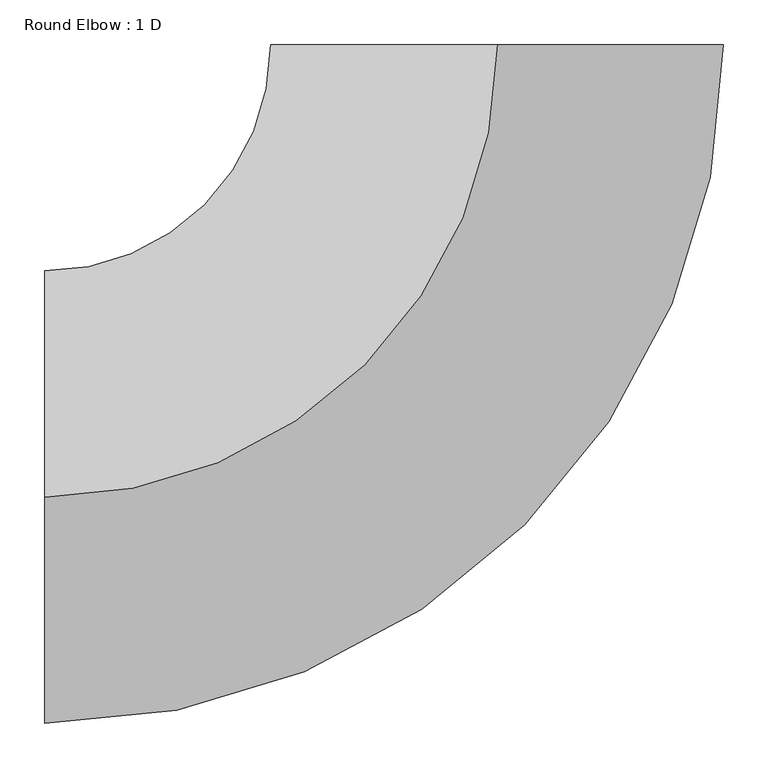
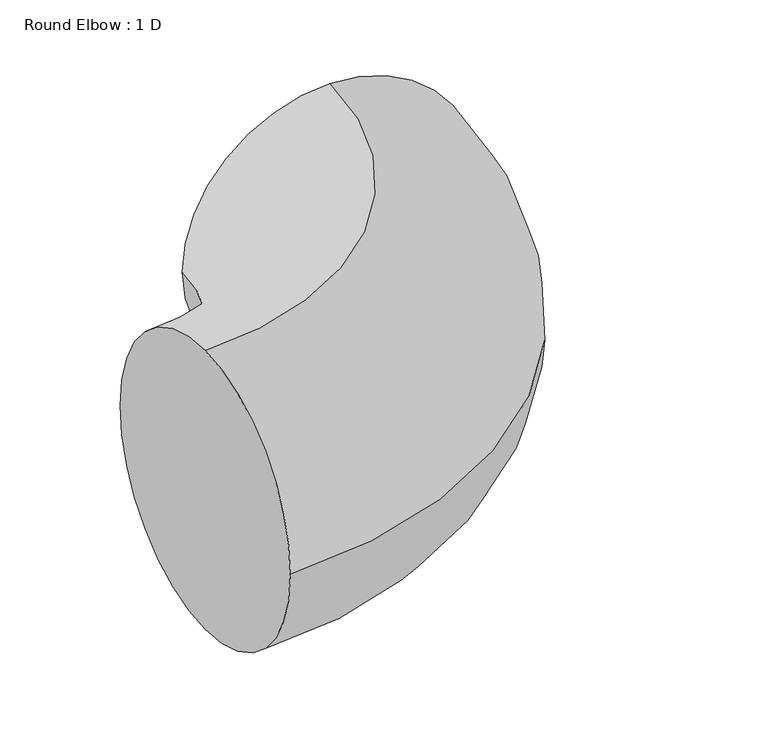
"""IFC4 building model written with IfcOpenShell, lengths in millimetres: duct fitting geometry, Round Elbow : 1 D."""

from ifc_helpers import new_model, si_unit, point, frame, origin, place, context, project, spatial, circle_curve, ellipse_curve, trimmed, source, transform, mapped, element, save
from ifc_brep_helpers import plane_surface, revolved_surface, advanced_brep


def round_elbow_1_d_1de4db61(model_context):
    return source(origin(), model_context, "Body", "AdvancedBrep", [
        advanced_brep(
        [(-508.0, 0.0, 254.0), (-508.0, 254.0, 0.0), (-508.0, 0.0, -254.0), (-508.0, -254.0, 0.0), (0.0, 508.0, 254.0), (254.0, 508.0, 0.0), (0.0, 508.0, -254.0), (-254.0, 508.0, 0.0)],
        [
            (0, 1, circle_curve(frame((-508.0, 0.0, 0.0), z_axis=(-1.0, 0.0, 0.0), x_axis=(0.0, 1.0, 0.0)), 254.0)),
            (1, 2, circle_curve(frame((-508.0, 0.0, 0.0), z_axis=(-1.0, 0.0, 0.0), x_axis=(0.0, 1.0, 0.0)), 254.0)),
            (2, 3, circle_curve(frame((-508.0, 0.0, 0.0), z_axis=(-1.0, 0.0, 0.0), x_axis=(0.0, 1.0, 0.0)), 254.0)),
            (3, 0, circle_curve(frame((-508.0, 0.0, 0.0), z_axis=(-1.0, 0.0, 0.0), x_axis=(0.0, 1.0, 0.0)), 254.0)),
            (4, 5, circle_curve(frame((0.0, 508.0, 0.0), z_axis=(0.0, 1.0, 0.0), x_axis=(-1.0, 0.0, 0.0)), 254.0)),
            (5, 6, circle_curve(frame((0.0, 508.0, 0.0), z_axis=(0.0, 1.0, 0.0), x_axis=(-1.0, 0.0, 0.0)), 254.0)),
            (6, 7, circle_curve(frame((0.0, 508.0, 0.0), z_axis=(0.0, 1.0, 0.0), x_axis=(-1.0, 0.0, 0.0)), 254.0)),
            (7, 4, circle_curve(frame((0.0, 508.0, 0.0), z_axis=(0.0, 1.0, 0.0), x_axis=(-1.0, 0.0, 0.0)), 254.0)),
            (7, 1, circle_curve(frame((-508.0, 508.0, 0.0), z_axis=(0.0, 0.0, -1.0), x_axis=(0.0, -1.0, 0.0)), 254.0)),
            (0, 4, circle_curve(frame((-508.0, 508.0, 254.0), z_axis=(0.0, 0.0, 1.0), x_axis=(0.0, -1.0, 0.0)), 508.0)),
            (6, 2, circle_curve(frame((-508.0, 508.0, -254.0), z_axis=(0.0, 0.0, -1.0), x_axis=(0.0, -1.0, 0.0)), 508.0)),
            (5, 3, circle_curve(frame((-508.0, 508.0, 0.0), z_axis=(0.0, 0.0, -1.0), x_axis=(0.0, -1.0, 0.0)), 762.0)),
        ],
        [
            plane_surface(frame((-508.0, 0.0, 0.0), z_axis=(-1.0, 0.0, 0.0), x_axis=(0.0, 0.0, 1.0))),
            plane_surface(frame((0.0, 508.0, 0.0), z_axis=(0.0, 1.0, 0.0), x_axis=(0.0, 0.0, 1.0))),
            revolved_surface(trimmed(ellipse_curve(frame((-508.0, 0.0, 0.0), z_axis=(-1.0, 0.0, 0.0), x_axis=(0.0, 1.0, 0.0)), 254.0, 254.0), [point((-508.0, 0.0, 254.0))], [point((-508.0, 254.0, 0.0))], True, "CARTESIAN"), (-508.0, 508.0, 0.0), (0.0, 0.0, 1.0)),
            revolved_surface(trimmed(ellipse_curve(frame((-508.0, 0.0, 0.0), z_axis=(-1.0, 0.0, 0.0), x_axis=(0.0, 1.0, 0.0)), 254.0, 254.0), [point((-508.0, 254.0, 0.0))], [point((-508.0, 0.0, -254.0))], True, "CARTESIAN"), (-508.0, 508.0, 0.0), (0.0, 0.0, 1.0)),
            revolved_surface(trimmed(ellipse_curve(frame((-508.0, 0.0, 0.0), z_axis=(-1.0, 0.0, 0.0), x_axis=(0.0, 1.0, 0.0)), 254.0, 254.0), [point((-508.0, 0.0, -254.0))], [point((-508.0, -254.0, 0.0))], True, "CARTESIAN"), (-508.0, 508.0, 0.0), (0.0, 0.0, 1.0)),
            revolved_surface(trimmed(ellipse_curve(frame((-508.0, 0.0, 0.0), z_axis=(-1.0, 0.0, 0.0), x_axis=(0.0, 1.0, 0.0)), 254.0, 254.0), [point((-508.0, -254.0, 0.0))], [point((-508.0, 0.0, 254.0))], True, "CARTESIAN"), (-508.0, 508.0, 0.0), (0.0, 0.0, 1.0)),
        ],
        [
            (0, [[1, 2, 3, 4]]),
            (1, [[5, 6, 7, 8]]),
            (2, [[9, -1, 10, -8]]),
            (3, [[11, -2, -9, -7]]),
            (4, [[12, -3, -11, -6]]),
            (5, [[-10, -4, -12, -5]]),
        ],
    ),
    ])


if __name__ == "__main__":
    model = new_model("IFC4")
    model_context = context("Model", 3, world=origin())
    ifc_project = project(units=[si_unit("LENGTHUNIT", "METRE", prefix="MILLI")], contexts=[model_context])
    site = spatial("IfcSite", under=ifc_project)
    building = spatial("IfcBuilding", under=site)
    placement = place(None, origin())
    round_elbow_1_d_shape = round_elbow_1_d_1de4db61(model_context)
    element("IfcDuctFitting", 1, ObjectType="Round Elbow : 1 D", at=placement, inside=building, context=model_context, shape_type="MappedRepresentation", body=[
        mapped(round_elbow_1_d_shape, transform((0.0, 0.0, 0.0), x_axis=(1.0, 0.0, 0.0), y_axis=(0.0, 1.0, 0.0), z_axis=(0.0, 0.0, 1.0))),
    ])
    save(model, "model.ifc")
